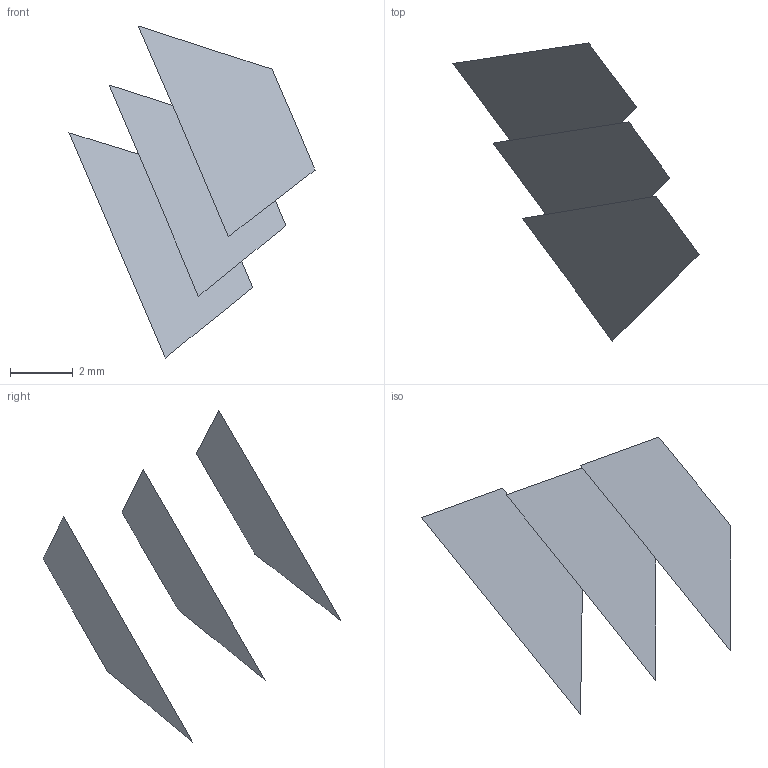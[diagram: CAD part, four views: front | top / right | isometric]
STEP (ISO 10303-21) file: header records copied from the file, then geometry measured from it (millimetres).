
FILE_DESCRIPTION(('FreeCAD Model'),'2;1');
FILE_NAME('Open CASCADE Shape Model','2022-05-22T07:50:32',('FreeCAD'),( 'FreeCAD'),'Open CASCADE STEP processor 7.5','FreeCAD','Unknown');
FILE_SCHEMA(('AUTOMOTIVE_DESIGN { 1 0 10303 214 1 1 1 1 }'));
Length unit declared in the file: millimetre
Products named in the file (4): Open CASCADE STEP translator 7.5 4; Open CASCADE STEP translator 7.5 4.1; Open CASCADE STEP translator 7.5 4.2; Open CASCADE STEP translator 7.5 4.3
Assembly tree (3 placements, depth 2):
  Open CASCADE STEP translator 7.5 4
    Open CASCADE STEP translator 7.5 4.1
    Open CASCADE STEP translator 7.5 4.2
    Open CASCADE STEP translator 7.5 4.3
Bounding box: 7.84 x 9.49 x 10.57 mm (x, y, z)
Surface area: 74.1 mm2 (no closed solid volume)
Topology: 0 solids, 3 shells, 3 faces, 27 edges, 27 vertices
Faces by surface type: bspline 3
Entity records: 451 total; most frequent: CARTESIAN_POINT 151, B_SPLINE_CURVE_WITH_KNOTS 54, ORIENTED_EDGE 27, EDGE_CURVE 27, VERTEX_POINT 27, SURFACE_CURVE 27, PCURVE 27, DEFINITIONAL_REPRESENTATION 27
